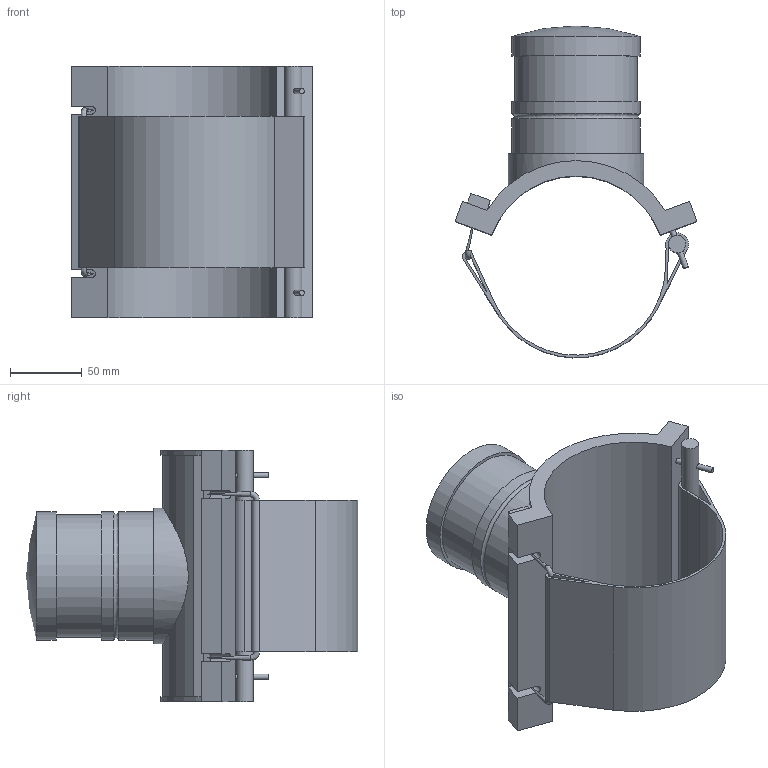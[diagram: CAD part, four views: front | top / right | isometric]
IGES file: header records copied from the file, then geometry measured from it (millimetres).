
Global section: file name: 496804125025.ipt; native system: Autodesk Inventor 2015; preprocessor: unknown; author: KIM; date: 20171106.094407; units: millimetre
Bounding box: 169 x 231.84 x 176 mm (x, y, z)
Volume: 1069953.3 mm3; surface area: 197553.8 mm2
Topology: 2 solids, 2 shells, 72 faces, 177 edges, 116 vertices
Faces by surface type: plane 43, cylinder 19, revolution 9, sphere 1
Full cylindrical faces by diameter (mm): 3.75 x6, 12.115 x1, 85.5 x1, 90 x3, 94.5 x1
